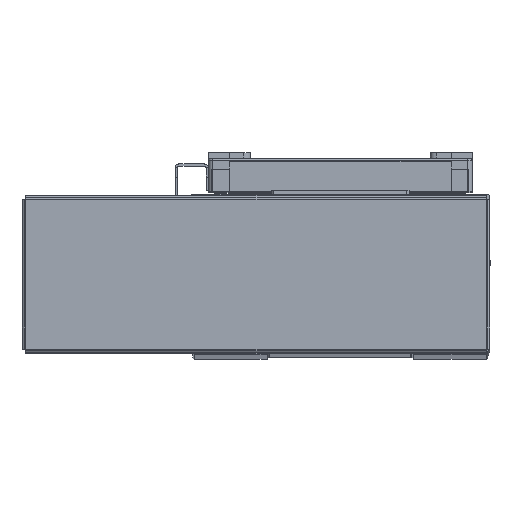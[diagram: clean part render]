
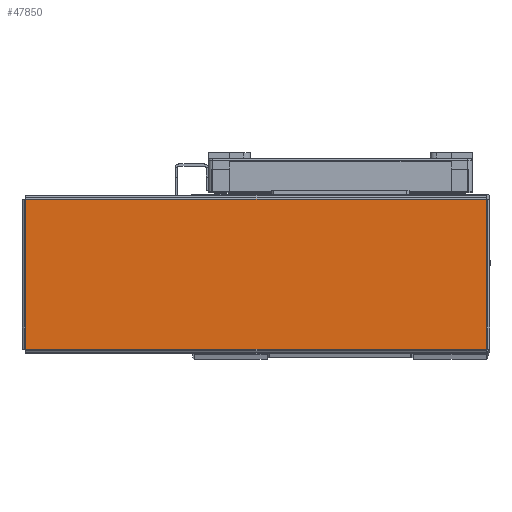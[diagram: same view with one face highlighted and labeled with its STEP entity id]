
A CAD part, top view. The second image highlights one B-rep face of the part: STEP entity #47850.
In plain terms, the highlighted planar face has unit normal (0, 0, 1) as drawn and (0, -1, 0) by its records, which use the part's own axes.
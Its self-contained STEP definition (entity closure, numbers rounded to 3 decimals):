
#3951 = ORIENTED_EDGE ( 'NONE', *, *, #34245, .T. ) ;
#3988 = ORIENTED_EDGE ( 'NONE', *, *, #34309, .T. ) ;
#3991 = ORIENTED_EDGE ( 'NONE', *, *, #34442, .T. ) ;
#4015 = ORIENTED_EDGE ( 'NONE', *, *, #34438, .T. ) ;
#7993 = VERTEX_POINT ( 'NONE', #64481 ) ;
#8032 = VERTEX_POINT ( 'NONE', #64515 ) ;
#10852 = VERTEX_POINT ( 'NONE', #64492 ) ;
#11698 = VECTOR ( 'NONE', #13163, 1000. ) ;
#11739 = LINE ( 'NONE', #13104, #11698 ) ;
#11888 = VECTOR ( 'NONE', #13609, 1000. ) ;
#11921 = LINE ( 'NONE', #13672, #11888 ) ;
#11934 = LINE ( 'NONE', #13517, #11994 ) ;
#11994 = VECTOR ( 'NONE', #13557, 1000. ) ;
#12813 = CARTESIAN_POINT ( 'NONE',  ( 103.793, -1., 33.763 ) ) ;
#12861 = DIRECTION ( 'NONE',  ( -1., 0., 0. ) ) ;
#13104 = CARTESIAN_POINT ( 'NONE',  ( 103.763, -1., -33.793 ) ) ;
#13163 = DIRECTION ( 'NONE',  ( 0., 0., 1. ) ) ;
#13517 = CARTESIAN_POINT ( 'NONE',  ( -103.763, -1., 33.793 ) ) ;
#13557 = DIRECTION ( 'NONE',  ( 0., 0., -1. ) ) ;
#13609 = DIRECTION ( 'NONE',  ( 1., 0., 0. ) ) ;
#13672 = CARTESIAN_POINT ( 'NONE',  ( -103.793, -1., -33.763 ) ) ;
#23816 = LINE ( 'NONE', #12813, #24288 ) ;
#24288 = VECTOR ( 'NONE', #12861, 1000. ) ;
#34245 = EDGE_CURVE ( 'NONE', #10852, #8032, #23816, .T. ) ;
#34309 = EDGE_CURVE ( 'NONE', #60962, #10852, #11739, .T. ) ;
#34438 = EDGE_CURVE ( 'NONE', #7993, #60962, #11921, .T. ) ;
#34442 = EDGE_CURVE ( 'NONE', #8032, #7993, #11934, .T. ) ;
#45821 = AXIS2_PLACEMENT_3D ( 'NONE', #59755, #59758, #59823 ) ;
#47850 = ADVANCED_FACE ( 'NONE', ( #57500 ), #59749, .F. ) ;
#57500 = FACE_OUTER_BOUND ( 'NONE', #61058, .T. ) ;
#59749 = PLANE ( 'NONE',  #45821 ) ;
#59755 = CARTESIAN_POINT ( 'NONE',  ( 0., -1., 0. ) ) ;
#59758 = DIRECTION ( 'NONE',  ( 0., 1., 0. ) ) ;
#59823 = DIRECTION ( 'NONE',  ( 0., 0., 1. ) ) ;
#60962 = VERTEX_POINT ( 'NONE', #63303 ) ;
#61058 = EDGE_LOOP ( 'NONE', ( #3951, #3991, #4015, #3988 ) ) ;
#63303 = CARTESIAN_POINT ( 'NONE',  ( 103.763, -1., -33.763 ) ) ;
#64481 = CARTESIAN_POINT ( 'NONE',  ( -103.763, -1., -33.763 ) ) ;
#64492 = CARTESIAN_POINT ( 'NONE',  ( 103.763, -1., 33.763 ) ) ;
#64515 = CARTESIAN_POINT ( 'NONE',  ( -103.763, -1., 33.763 ) ) ;
